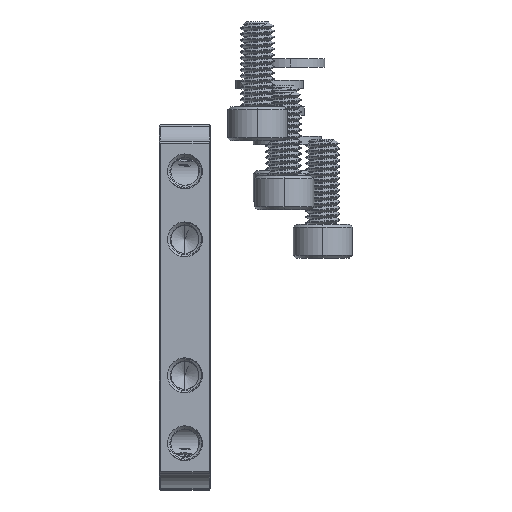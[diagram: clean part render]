
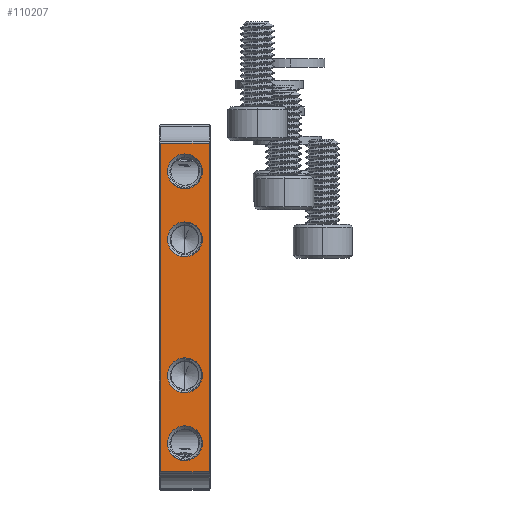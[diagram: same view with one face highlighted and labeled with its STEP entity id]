
A CAD part, left-side view. The second image highlights one B-rep face of the part: STEP entity #110207.
In plain terms, the highlighted planar face has unit normal (-1, 0, 0).
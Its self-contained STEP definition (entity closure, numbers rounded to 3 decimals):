
#2866 = EDGE_CURVE ( 'NONE', #95730, #17246, #40477, .T. ) ;
#2929 = CARTESIAN_POINT ( 'NONE',  ( -31.5, 5.875, 19.312 ) ) ;
#3214 = CARTESIAN_POINT ( 'NONE',  ( -31.5, 5.875, 19.312 ) ) ;
#5920 = VERTEX_POINT ( 'NONE', #2929 ) ;
#8274 = DIRECTION ( 'NONE',  ( 1., 0., 0. ) ) ;
#8818 = CARTESIAN_POINT ( 'NONE',  ( -31.5, 3., 8. ) ) ;
#9248 = VERTEX_POINT ( 'NONE', #95714 ) ;
#10268 = LINE ( 'NONE', #42290, #71561 ) ;
#13898 = CARTESIAN_POINT ( 'NONE',  ( -31.5, 3., 5.95 ) ) ;
#14449 = CARTESIAN_POINT ( 'NONE',  ( -31.5, 3., -5.95 ) ) ;
#15842 = AXIS2_PLACEMENT_3D ( 'NONE', #93890, #36676, #70470 ) ;
#15959 = AXIS2_PLACEMENT_3D ( 'NONE', #8818, #43708, #33297 ) ;
#16236 = DIRECTION ( 'NONE',  ( 0., 0., 1. ) ) ;
#16315 = DIRECTION ( 'NONE',  ( 0., 0., 1. ) ) ;
#16962 = LINE ( 'NONE', #151545, #83968 ) ;
#17012 = AXIS2_PLACEMENT_3D ( 'NONE', #77032, #100425, #16236 ) ;
#17246 = VERTEX_POINT ( 'NONE', #13898 ) ;
#17554 = EDGE_CURVE ( 'NONE', #50770, #9248, #117867, .T. ) ;
#17993 = CIRCLE ( 'NONE', #50458, 2.05 ) ;
#18704 = DIRECTION ( 'NONE',  ( 1., 0., 0. ) ) ;
#19275 = EDGE_LOOP ( 'NONE', ( #153328, #21917 ) ) ;
#20114 = DIRECTION ( 'NONE',  ( -1., 0., 0. ) ) ;
#20544 = DIRECTION ( 'NONE',  ( 0., 0., -1. ) ) ;
#21085 = ORIENTED_EDGE ( 'NONE', *, *, #86281, .T. ) ;
#21623 = VERTEX_POINT ( 'NONE', #139624 ) ;
#21825 = EDGE_LOOP ( 'NONE', ( #90844, #142620 ) ) ;
#21917 = ORIENTED_EDGE ( 'NONE', *, *, #72897, .T. ) ;
#25240 = EDGE_CURVE ( 'NONE', #17246, #95730, #70973, .T. ) ;
#28350 = EDGE_CURVE ( 'NONE', #5920, #45648, #16962, .T. ) ;
#32354 = AXIS2_PLACEMENT_3D ( 'NONE', #112267, #18704, #126329 ) ;
#32762 = CARTESIAN_POINT ( 'NONE',  ( -31.5, 3., -16. ) ) ;
#33194 = CARTESIAN_POINT ( 'NONE',  ( -31.5, 0.125, -19.375 ) ) ;
#33297 = DIRECTION ( 'NONE',  ( 0., 0., 1. ) ) ;
#33420 = VERTEX_POINT ( 'NONE', #86613 ) ;
#34354 = CIRCLE ( 'NONE', #132759, 2.05 ) ;
#34364 = ORIENTED_EDGE ( 'NONE', *, *, #17554, .T. ) ;
#34512 = CIRCLE ( 'NONE', #15842, 2.05 ) ;
#36676 = DIRECTION ( 'NONE',  ( 1., 0., 0. ) ) ;
#39137 = ORIENTED_EDGE ( 'NONE', *, *, #28350, .T. ) ;
#39844 = VERTEX_POINT ( 'NONE', #82441 ) ;
#40477 = CIRCLE ( 'NONE', #15959, 2.05 ) ;
#40860 = DIRECTION ( 'NONE',  ( 0., 0., 1. ) ) ;
#42290 = CARTESIAN_POINT ( 'NONE',  ( -31.5, 6., -19.375 ) ) ;
#42685 = FACE_BOUND ( 'NONE', #19275, .T. ) ;
#43708 = DIRECTION ( 'NONE',  ( 1., 0., 0. ) ) ;
#44029 = CARTESIAN_POINT ( 'NONE',  ( -31.5, 3., 8. ) ) ;
#45648 = VERTEX_POINT ( 'NONE', #112801 ) ;
#47277 = LINE ( 'NONE', #3214, #101084 ) ;
#47743 = CARTESIAN_POINT ( 'NONE',  ( -31.5, 3., -10.05 ) ) ;
#50458 = AXIS2_PLACEMENT_3D ( 'NONE', #32762, #8274, #91456 ) ;
#50770 = VERTEX_POINT ( 'NONE', #33194 ) ;
#51866 = FACE_OUTER_BOUND ( 'NONE', #85143, .T. ) ;
#52565 = VECTOR ( 'NONE', #40860, 1000. ) ;
#54105 = EDGE_CURVE ( 'NONE', #33420, #39844, #129445, .T. ) ;
#55055 = EDGE_CURVE ( 'NONE', #149568, #21623, #110743, .T. ) ;
#56261 = ORIENTED_EDGE ( 'NONE', *, *, #54105, .T. ) ;
#57492 = CARTESIAN_POINT ( 'NONE',  ( -31.5, 6., 0. ) ) ;
#57828 = AXIS2_PLACEMENT_3D ( 'NONE', #146283, #134827, #16315 ) ;
#65112 = EDGE_CURVE ( 'NONE', #142949, #65979, #149257, .T. ) ;
#65979 = VERTEX_POINT ( 'NONE', #47743 ) ;
#70470 = DIRECTION ( 'NONE',  ( 0., 0., 1. ) ) ;
#70973 = CIRCLE ( 'NONE', #136719, 2.05 ) ;
#71561 = VECTOR ( 'NONE', #102059, 1000. ) ;
#72897 = EDGE_CURVE ( 'NONE', #21623, #149568, #17993, .T. ) ;
#76042 = FACE_BOUND ( 'NONE', #21825, .T. ) ;
#77032 = CARTESIAN_POINT ( 'NONE',  ( -31.5, 3., -16. ) ) ;
#80358 = DIRECTION ( 'NONE',  ( 1., 0., 0. ) ) ;
#81301 = ORIENTED_EDGE ( 'NONE', *, *, #150305, .T. ) ;
#82030 = EDGE_CURVE ( 'NONE', #65979, #142949, #34512, .T. ) ;
#82441 = CARTESIAN_POINT ( 'NONE',  ( -31.5, 3., 18.05 ) ) ;
#83968 = VECTOR ( 'NONE', #20544, 1000. ) ;
#85143 = EDGE_LOOP ( 'NONE', ( #34364, #143437, #39137, #81301 ) ) ;
#86281 = EDGE_CURVE ( 'NONE', #39844, #33420, #34354, .T. ) ;
#86613 = CARTESIAN_POINT ( 'NONE',  ( -31.5, 3., 13.95 ) ) ;
#88003 = DIRECTION ( 'NONE',  ( 1., 0., 0. ) ) ;
#90844 = ORIENTED_EDGE ( 'NONE', *, *, #65112, .T. ) ;
#91456 = DIRECTION ( 'NONE',  ( 0., 0., 1. ) ) ;
#91818 = DIRECTION ( 'NONE',  ( 0., 0., 1. ) ) ;
#93493 = CARTESIAN_POINT ( 'NONE',  ( -31.5, 3., 10.05 ) ) ;
#93890 = CARTESIAN_POINT ( 'NONE',  ( -31.5, 3., -8. ) ) ;
#93909 = EDGE_LOOP ( 'NONE', ( #114034, #131412 ) ) ;
#94745 = FACE_BOUND ( 'NONE', #93909, .T. ) ;
#95714 = CARTESIAN_POINT ( 'NONE',  ( -31.5, 0.125, 19.312 ) ) ;
#95730 = VERTEX_POINT ( 'NONE', #93493 ) ;
#95911 = CARTESIAN_POINT ( 'NONE',  ( -31.5, 3., -13.95 ) ) ;
#100425 = DIRECTION ( 'NONE',  ( 1., 0., 0. ) ) ;
#101084 = VECTOR ( 'NONE', #135274, 1000. ) ;
#102059 = DIRECTION ( 'NONE',  ( 0., -1., 0. ) ) ;
#102915 = AXIS2_PLACEMENT_3D ( 'NONE', #57492, #20114, #91818 ) ;
#110207 = ADVANCED_FACE ( 'NONE', ( #42685, #76042, #94745, #137738, #51866 ), #127727, .T. ) ;
#110743 = CIRCLE ( 'NONE', #17012, 2.05 ) ;
#112267 = CARTESIAN_POINT ( 'NONE',  ( -31.5, 3., -8. ) ) ;
#112801 = CARTESIAN_POINT ( 'NONE',  ( -31.5, 5.875, -19.375 ) ) ;
#113022 = CARTESIAN_POINT ( 'NONE',  ( -31.5, 3., 16. ) ) ;
#114034 = ORIENTED_EDGE ( 'NONE', *, *, #2866, .T. ) ;
#117867 = LINE ( 'NONE', #147423, #52565 ) ;
#126329 = DIRECTION ( 'NONE',  ( 0., 0., 1. ) ) ;
#127727 = PLANE ( 'NONE',  #102915 ) ;
#129445 = CIRCLE ( 'NONE', #57828, 2.05 ) ;
#131412 = ORIENTED_EDGE ( 'NONE', *, *, #25240, .T. ) ;
#132759 = AXIS2_PLACEMENT_3D ( 'NONE', #113022, #88003, #136931 ) ;
#134827 = DIRECTION ( 'NONE',  ( 1., 0., 0. ) ) ;
#135274 = DIRECTION ( 'NONE',  ( 0., 1., 0. ) ) ;
#136125 = EDGE_LOOP ( 'NONE', ( #21085, #56261 ) ) ;
#136719 = AXIS2_PLACEMENT_3D ( 'NONE', #44029, #80358, #138625 ) ;
#136931 = DIRECTION ( 'NONE',  ( 0., 0., 1. ) ) ;
#137738 = FACE_BOUND ( 'NONE', #136125, .T. ) ;
#138625 = DIRECTION ( 'NONE',  ( 0., 0., 1. ) ) ;
#139624 = CARTESIAN_POINT ( 'NONE',  ( -31.5, 3., -18.05 ) ) ;
#142620 = ORIENTED_EDGE ( 'NONE', *, *, #82030, .T. ) ;
#142949 = VERTEX_POINT ( 'NONE', #14449 ) ;
#143437 = ORIENTED_EDGE ( 'NONE', *, *, #153919, .T. ) ;
#146283 = CARTESIAN_POINT ( 'NONE',  ( -31.5, 3., 16. ) ) ;
#147423 = CARTESIAN_POINT ( 'NONE',  ( -31.5, 0.125, 19.5 ) ) ;
#149257 = CIRCLE ( 'NONE', #32354, 2.05 ) ;
#149568 = VERTEX_POINT ( 'NONE', #95911 ) ;
#150305 = EDGE_CURVE ( 'NONE', #45648, #50770, #10268, .T. ) ;
#151545 = CARTESIAN_POINT ( 'NONE',  ( -31.5, 5.875, 0. ) ) ;
#153328 = ORIENTED_EDGE ( 'NONE', *, *, #55055, .T. ) ;
#153919 = EDGE_CURVE ( 'NONE', #9248, #5920, #47277, .T. ) ;
